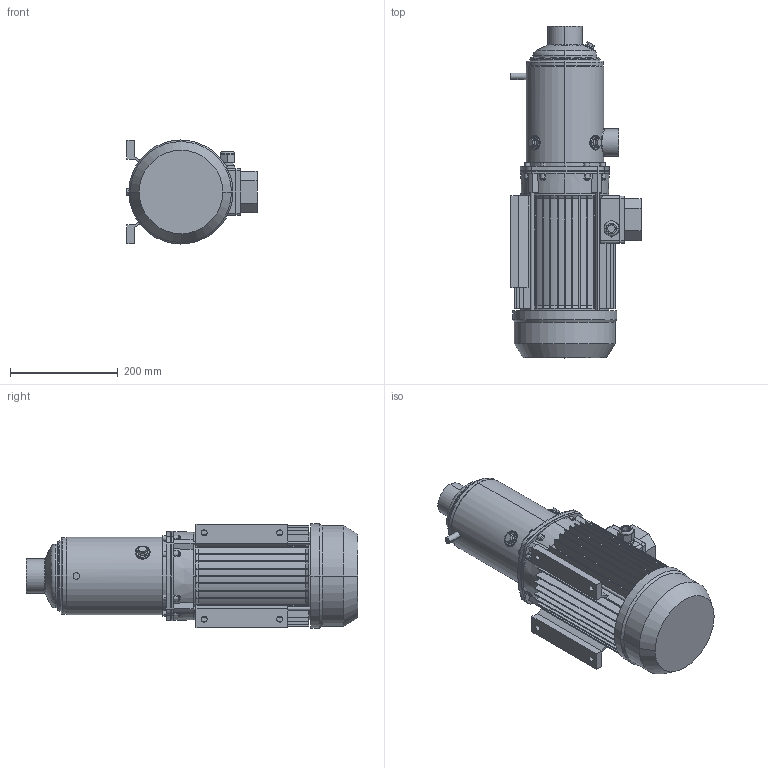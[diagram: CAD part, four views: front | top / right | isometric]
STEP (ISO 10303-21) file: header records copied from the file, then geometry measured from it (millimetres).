
FILE_DESCRIPTION((''),'2;1');
FILE_NAME('MATRIX_18-5T_4_IE3_ASM','2018-06-01T',('rosa'),('"Ebara Pumps Europe +39.444.706811"'),'PRO/ENGINEER BY PARAMETRIC TECHNOLOGY CORPORATION, 2012130','PRO/ENGINEER BY PARAMETRIC TECHNOLOGY CORPORATION, 2012130','');
FILE_SCHEMA(('AUTOMOTIVE_DESIGN { 1 0 10303 214 1 1 1 1 }'));
Length unit declared in the file: millimetre
Products named in the file (4): CORPO_POMPA_MATRIX_18-5; SUPPORTO_MATRIX_MEC_100; MEC_100X170_IE2_ZAMPATO; MATRIX_18-5T_4_IE3_ASM
Assembly tree (3 placements, depth 2):
  MATRIX_18-5T_4_IE3_ASM
    CORPO_POMPA_MATRIX_18-5
    SUPPORTO_MATRIX_MEC_100
    MEC_100X170_IE2_ZAMPATO
Bounding box: 241 x 614.8 x 192.8 mm (x, y, z)
Volume: 8107209 mm3; surface area: 879635.1 mm2
Topology: 3 solids, 3 shells, 707 faces, 1697 edges, 1045 vertices
Faces by surface type: plane 346, cylinder 186, cone 99, bspline 44, torus 31, sphere 1
Entity records: 29923 total; most frequent: CARTESIAN_POINT 7852, DIRECTION 3466, ORIENTED_EDGE 3394, PRESENTATION_STYLE_ASSIGNMENT 1700, STYLED_ITEM 1700, CURVE_STYLE 1697, EDGE_CURVE 1697, AXIS2_PLACEMENT_3D 1347
